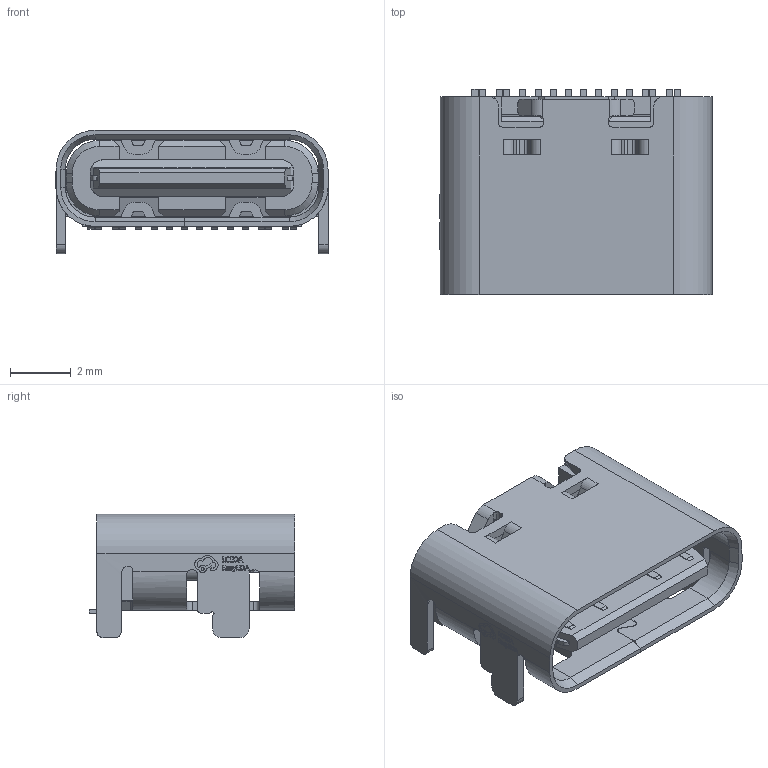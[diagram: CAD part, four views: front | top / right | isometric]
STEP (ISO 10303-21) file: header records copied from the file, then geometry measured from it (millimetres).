
FILE_DESCRIPTION (( 'STEP AP214' ), '1' );
FILE_NAME ('USB-C-SMD_2171790001.STEP', '2025-02-11T14:42:44', ( '' ), ( '' ), 'SwSTEP 2.0', 'SolidWorks 2020', '' );
FILE_SCHEMA (( 'AUTOMOTIVE_DESIGN' ));
Length unit declared in the file: millimetre
Products named in the file (1): USB-C-SMD_2171790001
Bounding box: 8.95 x 6.75 x 4.06 mm (x, y, z)
Volume: 95.6 mm3; surface area: 430.8 mm2
Topology: 1 solids, 1 shells, 891 faces, 2583 edges, 1689 vertices
Faces by surface type: plane 598, cylinder 180, bspline 100, cone 13
Entity records: 39793 total; most frequent: CARTESIAN_POINT 7062, ORIENTED_EDGE 5166, DIRECTION 4203, EDGE_CURVE 2583, LINE 1905, VECTOR 1905, VERTEX_POINT 1689, AXIS2_PLACEMENT_3D 1149
